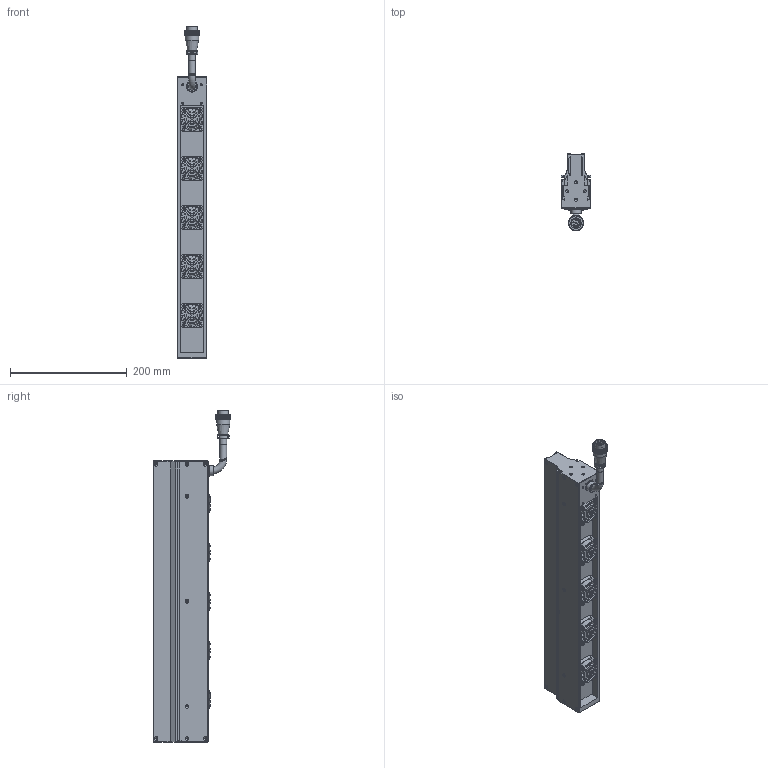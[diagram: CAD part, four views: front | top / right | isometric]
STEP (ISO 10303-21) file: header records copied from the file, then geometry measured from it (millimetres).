
FILE_DESCRIPTION (( 'STEP AP203' ), '1' );
FILE_NAME ('OPT-LSS482-W-V3.1U尨砩芞.STEP', '2025-01-21T03:12:04', ( 'USER' ), ( '' ), 'SwSTEP 2.0', 'SolidWorks 2016', '' );
FILE_SCHEMA (( 'CONFIG_CONTROL_DESIGN' ));
Products named in the file (2): OPT-LSS482-W-V3.1U尨砩芞
Bounding box: 50 x 133 x 569.1 mm (x, y, z)
Volume: 1648948.9 mm3; surface area: 287638 mm2
Topology: 26 solids, 36 shells, 2968 faces, 7536 edges, 4758 vertices
Faces by surface type: bspline 1078, cylinder 889, plane 663, torus 287, cone 51
Full cylindrical faces by diameter (mm): 1 x2, 1.1 x2, 1.4 x2, 1.6 x20, 2 x5, 2.5 x22, 3 x4, 3.2 x24, 3.4 x18, 3.5 x6, 5 x8, 6.2 x20, 8 x1, 11.6 x1, 11.7 x3, 12 x1, 15 x1, 15.9 x1, 17.5 x1, 18 x1, 18.5 x1, 22.8 x1, 24 x1, 24.8 x5, 38 x5
Entity records: 110480 total; most frequent: CARTESIAN_POINT 51390, ORIENTED_EDGE 14244, DIRECTION 8152, EDGE_CURVE 7122, VERTEX_POINT 4666, B_SPLINE_CURVE_WITH_KNOTS 4218, EDGE_LOOP 3446, AXIS2_PLACEMENT_3D 3364
